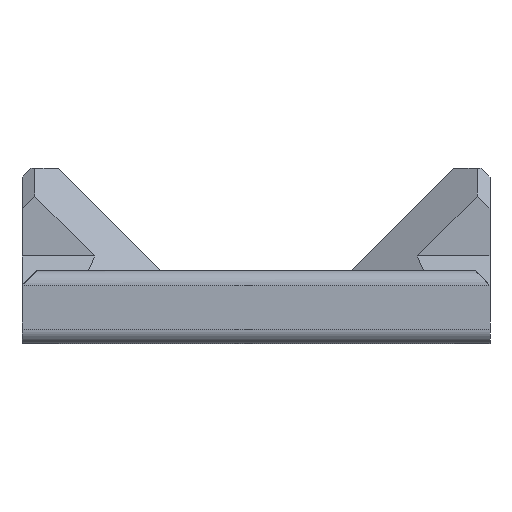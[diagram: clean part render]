
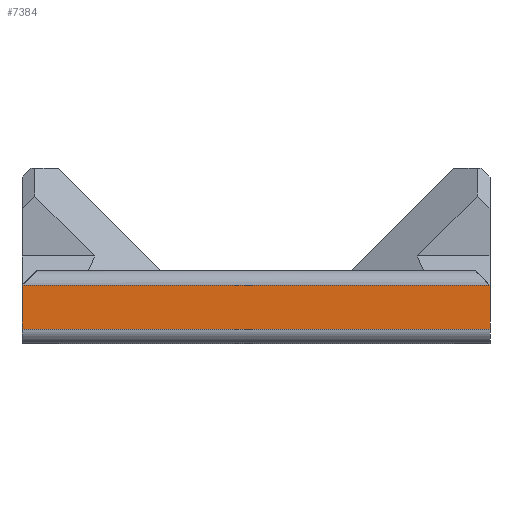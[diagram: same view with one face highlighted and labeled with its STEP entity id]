
A CAD part, front view. The second image highlights one B-rep face of the part: STEP entity #7384.
In plain terms, the highlighted planar face has unit normal (0, -1, 0).
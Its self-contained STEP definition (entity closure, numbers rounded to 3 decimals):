
#760=FACE_OUTER_BOUND('',#1174,.T.);
#1174=EDGE_LOOP('',(#6424,#6425,#6426,#6427));
#1913=LINE('',#11995,#2759);
#2036=LINE('',#12367,#2882);
#2037=LINE('',#12369,#2883);
#2038=LINE('',#12370,#2884);
#2759=VECTOR('',#9600,10.);
#2882=VECTOR('',#9901,10.);
#2883=VECTOR('',#9902,10.);
#2884=VECTOR('',#9903,10.);
#3456=VERTEX_POINT('',#11992);
#3457=VERTEX_POINT('',#11994);
#3553=VERTEX_POINT('',#12366);
#3554=VERTEX_POINT('',#12368);
#4432=EDGE_CURVE('',#3456,#3457,#1913,.T.);
#4589=EDGE_CURVE('',#3457,#3553,#2036,.T.);
#4590=EDGE_CURVE('',#3554,#3456,#2037,.T.);
#4591=EDGE_CURVE('',#3554,#3553,#2038,.T.);
#6424=ORIENTED_EDGE('',*,*,#4589,.F.);
#6425=ORIENTED_EDGE('',*,*,#4432,.F.);
#6426=ORIENTED_EDGE('',*,*,#4590,.F.);
#6427=ORIENTED_EDGE('',*,*,#4591,.T.);
#6978=PLANE('',#7958);
#7384=ADVANCED_FACE('',(#760),#6978,.T.);
#7958=AXIS2_PLACEMENT_3D('',#12365,#9899,#9900);
#9600=DIRECTION('',(0.,0.,-1.));
#9899=DIRECTION('center_axis',(0.,-1.,0.));
#9900=DIRECTION('ref_axis',(0.,0.,1.));
#9901=DIRECTION('',(-1.,0.,0.));
#9902=DIRECTION('',(1.,0.,0.));
#9903=DIRECTION('',(0.,0.,-1.));
#11992=CARTESIAN_POINT('',(16.,-22.5,14.));
#11994=CARTESIAN_POINT('',(16.,-22.5,11.));
#11995=CARTESIAN_POINT('',(16.,-22.5,11.25));
#12365=CARTESIAN_POINT('Origin',(16.,-22.5,10.));
#12366=CARTESIAN_POINT('',(-16.,-22.5,11.));
#12367=CARTESIAN_POINT('',(16.,-22.5,11.));
#12368=CARTESIAN_POINT('',(-16.,-22.5,14.));
#12369=CARTESIAN_POINT('',(16.,-22.5,14.));
#12370=CARTESIAN_POINT('',(-16.,-22.5,11.25));
